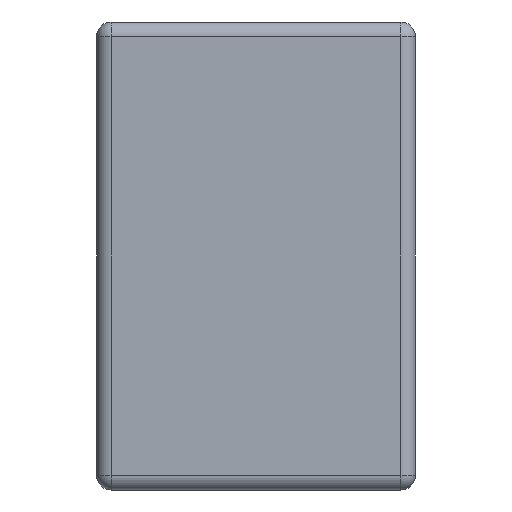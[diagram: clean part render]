
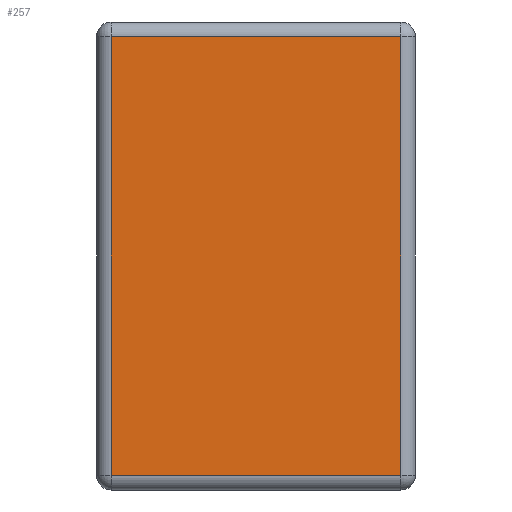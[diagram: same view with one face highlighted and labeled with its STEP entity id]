
A CAD part, left-side view. The second image highlights one B-rep face of the part: STEP entity #257.
In plain terms, the highlighted planar face has unit normal (-1, 0, 0).
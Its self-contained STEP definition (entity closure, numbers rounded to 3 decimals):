
#17 = CARTESIAN_POINT ( 'NONE',  ( -1.6, 1.04, 0.75 ) ) ;
#18 = VERTEX_POINT ( 'NONE', #17 ) ;
#26 = CARTESIAN_POINT ( 'NONE',  ( -1.6, 0.05, 0.75 ) ) ;
#27 = VERTEX_POINT ( 'NONE', #26 ) ;
#28 = CARTESIAN_POINT ( 'NONE',  ( -1.6, 1.09, 0.75 ) ) ;
#29 = DIRECTION ( 'NONE',  ( 0., 1., 0. ) ) ;
#30 = VECTOR ( 'NONE', #29, 1000. ) ;
#31 = LINE ( 'NONE', #28, #30 ) ;
#32 = EDGE_CURVE ( 'NONE', #27, #18, #31, .T. ) ;
#57 = CARTESIAN_POINT ( 'NONE',  ( -1.6, 1.04, -0.75 ) ) ;
#58 = VERTEX_POINT ( 'NONE', #57 ) ;
#76 = CARTESIAN_POINT ( 'NONE',  ( -1.6, 0.05, -0.75 ) ) ;
#77 = VERTEX_POINT ( 'NONE', #76 ) ;
#85 = CARTESIAN_POINT ( 'NONE',  ( -1.6, 0., -0.75 ) ) ;
#86 = DIRECTION ( 'NONE',  ( 0., -1., 0. ) ) ;
#87 = VECTOR ( 'NONE', #86, 1000. ) ;
#88 = LINE ( 'NONE', #85, #87 ) ;
#89 = EDGE_CURVE ( 'NONE', #58, #77, #88, .T. ) ;
#179 = CARTESIAN_POINT ( 'NONE',  ( -1.6, 1.04, -0.8 ) ) ;
#180 = DIRECTION ( 'NONE',  ( 0., 0., -1. ) ) ;
#181 = VECTOR ( 'NONE', #180, 1000. ) ;
#182 = LINE ( 'NONE', #179, #181 ) ;
#183 = EDGE_CURVE ( 'NONE', #18, #58, #182, .T. ) ;
#241 = ORIENTED_EDGE ( 'NONE', *, *, #183, .T. ) ;
#242 = ORIENTED_EDGE ( 'NONE', *, *, #89, .T. ) ;
#243 = CARTESIAN_POINT ( 'NONE',  ( -1.6, 0.05, 0.8 ) ) ;
#244 = DIRECTION ( 'NONE',  ( 0., 0., 1. ) ) ;
#245 = VECTOR ( 'NONE', #244, 1000. ) ;
#246 = LINE ( 'NONE', #243, #245 ) ;
#247 = EDGE_CURVE ( 'NONE', #77, #27, #246, .T. ) ;
#248 = ORIENTED_EDGE ( 'NONE', *, *, #247, .T. ) ;
#249 = ORIENTED_EDGE ( 'NONE', *, *, #32, .T. ) ;
#250 = EDGE_LOOP ( 'NONE', ( #241, #242, #248, #249 ) ) ;
#251 = FACE_OUTER_BOUND ( 'NONE', #250, .T. ) ;
#252 = CARTESIAN_POINT ( 'NONE',  ( -1.6, 0., 0. ) ) ;
#253 = DIRECTION ( 'NONE',  ( -1., 0., 0. ) ) ;
#254 = DIRECTION ( 'NONE',  ( 0., 0., 1. ) ) ;
#255 = AXIS2_PLACEMENT_3D ( 'NONE', #252, #253, #254 ) ;
#256 = PLANE ( 'NONE', #255 ) ;
#257 = ADVANCED_FACE ( 'NONE', ( #251 ), #256, .T. ) ;
